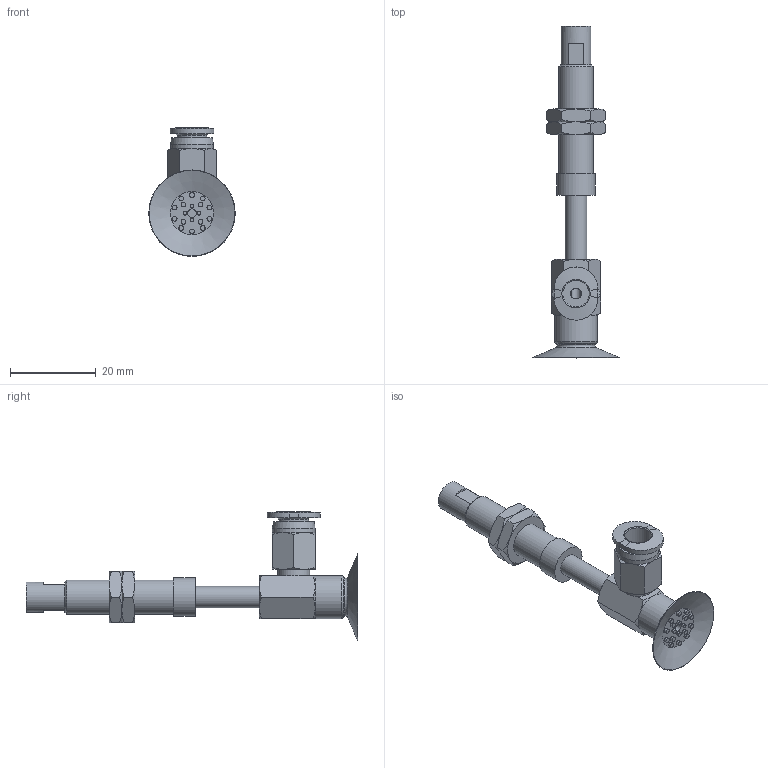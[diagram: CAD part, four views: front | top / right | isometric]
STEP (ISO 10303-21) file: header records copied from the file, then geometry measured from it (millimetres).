
FILE_DESCRIPTION(('STEP AP203'),'1');
FILE_NAME('-O.stp','2025-02-18T01:25:57',(' '),(' '),'Spatial InterOp 3D',' ',' ');
FILE_SCHEMA(('CONFIG_CONTROL_DESIGN'));
Length unit declared in the file: millimetre
Products named in the file (7): BNABPAYS-20A-15-※-O; NAPAYS-20A-15--M; NAPAYS-20A-15--F; Nut-10A-S; CONNECTOR-20A-15-PA; BPAG-20A-※_3D; PC-C_06-M5
Assembly tree (7 placements, depth 2):
  BNABPAYS-20A-15-※-O
    NAPAYS-20A-15--M
    NAPAYS-20A-15--F
    Nut-10A-S  x2
    CONNECTOR-20A-15-PA
    BPAG-20A-※_3D
    PC-C_06-M5
Bounding box: 20.19 x 77.5 x 30.07 mm (x, y, z)
Volume: 4258.5 mm3; surface area: 6471.7 mm2
Topology: 6 solids, 9 shells, 216 faces, 428 edges, 262 vertices
Faces by surface type: plane 86, cone 67, cylinder 44, torus 12, bspline 4, revolution 3
Full cylindrical faces by diameter (mm): 0.9 x4, 1.1 x14, 2 x2, 4 x4, 4.134 x2, 5 x4, 6 x2, 7 x2, 7.188 x2, 7.4 x1, 8 x1, 8.2 x1, 9 x1, 10 x2
Entity records: 5340 total; most frequent: CARTESIAN_POINT 1420, DIRECTION 761, ORIENTED_EDGE 594, AXIS2_PLACEMENT_3D 350, EDGE_LOOP 308, EDGE_CURVE 299, VERTEX_POINT 223, FACE_OUTER_BOUND 186
